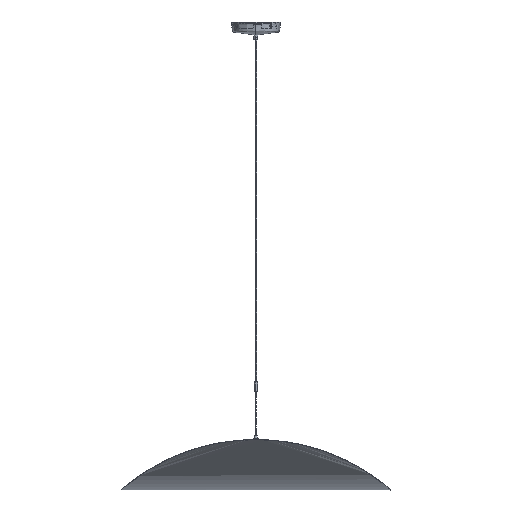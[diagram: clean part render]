
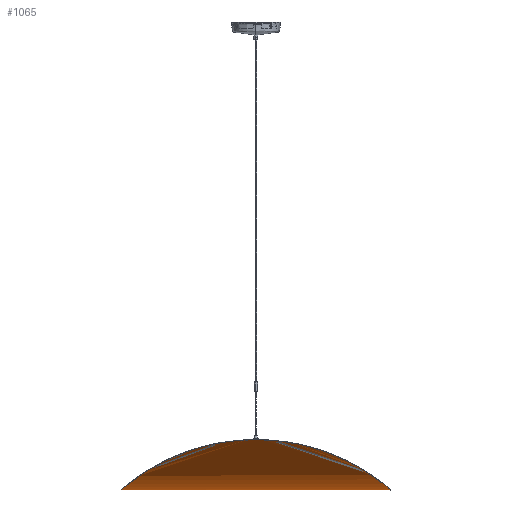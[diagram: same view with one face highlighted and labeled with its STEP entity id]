
A CAD part, front view. The second image highlights one B-rep face of the part: STEP entity #1065.
In plain terms, the highlighted free-form (B-spline) face has degree [2, 1] with [9, 2] control points.
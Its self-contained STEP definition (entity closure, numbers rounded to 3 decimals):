
#1065=ADVANCED_FACE('',(#1907),#12592,.T.);
#1907=FACE_OUTER_BOUND('',#2885,.T.);
#2885=EDGE_LOOP('',(#6923));
#6923=ORIENTED_EDGE('',*,*,#8967,.T.);
#8967=EDGE_CURVE('',#12329,#12329,#11014,.T.);
#11014=B_SPLINE_CURVE_WITH_KNOTS('',3,(#33799,#33800,#33801,#33802,#33803,
#33804,#33805,#33806,#33807,#33808,#33809,#33810,#33811,#33812,#33813,#33814,
#33815,#33816,#33817,#33818,#33819,#33820,#33821,#33822,#33823,#33824,#33825,
#33826,#33827,#33828,#33829,#33830,#33831,#33832,#33833,#33834,#33835,#33836,
#33837,#33838,#33839,#33840,#33841),.UNSPECIFIED.,.T.,.F.,(4,2,2,2,2,2,
2,2,2,2,2,2,2,2,2,2,3,2,2,2,4),(0.,0.062,0.125,
0.188,0.25,0.312,0.374,
0.437,0.5,0.563,0.626,
0.688,0.751,0.814,0.876,
0.938,1.,1.251,1.502,1.751,
2.),.UNSPECIFIED.);
#12329=VERTEX_POINT('',#33443);
#12592=(
BOUNDED_SURFACE()
B_SPLINE_SURFACE(2,1,((#33352,#33353),(#33354,#33355),(#33356,#33357),(#33358,
#33359),(#33360,#33361),(#33362,#33363),(#33364,#33365),(#33366,#33367),
(#33368,#33369)),.UNSPECIFIED.,.T.,.F.,.F.)
B_SPLINE_SURFACE_WITH_KNOTS((3,2,2,2,3),(2,2),(0.,1478.119,2956.239,
4434.358,5912.477),(0.,1295.992),.UNSPECIFIED.)
GEOMETRIC_REPRESENTATION_ITEM()
RATIONAL_B_SPLINE_SURFACE(((1.,1.),(0.707,0.707),
(1.,1.),(0.707,0.707),(1.,1.),(0.707,
0.707),(1.,1.),(0.707,0.707),(1.,1.)))
REPRESENTATION_ITEM('')
SURFACE()
);
#33352=CARTESIAN_POINT('',(-648.971,704.911,507.912));
#33353=CARTESIAN_POINT('',(647.021,704.911,507.912));
#33354=CARTESIAN_POINT('',(-648.971,704.911,1448.912));
#33355=CARTESIAN_POINT('',(647.021,704.911,1448.912));
#33356=CARTESIAN_POINT('',(-648.971,-236.089,1448.912));
#33357=CARTESIAN_POINT('',(647.021,-236.089,1448.912));
#33358=CARTESIAN_POINT('',(-648.971,-1177.089,1448.912));
#33359=CARTESIAN_POINT('',(647.021,-1177.089,1448.912));
#33360=CARTESIAN_POINT('',(-648.971,-1177.089,507.912));
#33361=CARTESIAN_POINT('',(647.021,-1177.089,507.912));
#33362=CARTESIAN_POINT('',(-648.971,-1177.089,-433.088));
#33363=CARTESIAN_POINT('',(647.021,-1177.089,-433.088));
#33364=CARTESIAN_POINT('',(-648.971,-236.089,-433.088));
#33365=CARTESIAN_POINT('',(647.021,-236.089,-433.088));
#33366=CARTESIAN_POINT('',(-648.971,704.911,-433.088));
#33367=CARTESIAN_POINT('',(647.021,704.911,-433.088));
#33368=CARTESIAN_POINT('',(-648.971,704.911,507.912));
#33369=CARTESIAN_POINT('',(647.021,704.911,507.912));
#33443=CARTESIAN_POINT('',(535.,-236.089,-433.088));
#33799=CARTESIAN_POINT('',(535.,-236.089,-433.088));
#33800=CARTESIAN_POINT('',(535.,-297.878,-433.088));
#33801=CARTESIAN_POINT('',(528.126,-359.324,-426.911));
#33802=CARTESIAN_POINT('',(499.697,-476.477,-403.84));
#33803=CARTESIAN_POINT('',(478.104,-532.184,-386.929));
#33804=CARTESIAN_POINT('',(417.29,-633.072,-346.98));
#33805=CARTESIAN_POINT('',(378.407,-676.869,-324.454));
#33806=CARTESIAN_POINT('',(286.914,-746.635,-283.58));
#33807=CARTESIAN_POINT('',(233.99,-773.115,-265.109));
#33808=CARTESIAN_POINT('',(118.488,-808.064,-239.607));
#33809=CARTESIAN_POINT('',(56.667,-816.553,-232.725));
#33810=CARTESIAN_POINT('',(-66.681,-815.585,-233.482));
#33811=CARTESIAN_POINT('',(-128.249,-806.138,-241.112));
#33812=CARTESIAN_POINT('',(-243.063,-769.141,-267.889));
#33813=CARTESIAN_POINT('',(-295.308,-741.641,-286.825));
#33814=CARTESIAN_POINT('',(-385.144,-670.072,-328.061));
#33815=CARTESIAN_POINT('',(-423.002,-625.583,-350.454));
#33816=CARTESIAN_POINT('',(-482.206,-523.045,-389.951));
#33817=CARTESIAN_POINT('',(-502.933,-466.621,-406.39));
#33818=CARTESIAN_POINT('',(-529.663,-348.771,-428.249));
#33819=CARTESIAN_POINT('',(-535.696,-287.345,-433.693));
#33820=CARTESIAN_POINT('',(-534.187,-164.79,-432.382));
#33821=CARTESIAN_POINT('',(-526.636,-103.66,-425.621));
#33822=CARTESIAN_POINT('',(-496.684,12.933,-401.49));
#33823=CARTESIAN_POINT('',(-474.246,68.396,-384.096));
#33824=CARTESIAN_POINT('',(-411.519,168.142,-343.538));
#33825=CARTESIAN_POINT('',(-371.59,211.28,-320.887));
#33826=CARTESIAN_POINT('',(-278.473,279.25,-280.424));
#33827=CARTESIAN_POINT('',(-224.892,304.72,-262.436));
#33828=CARTESIAN_POINT('',(-108.727,337.647,-238.223));
#33829=CARTESIAN_POINT('',(-46.712,345.18,-232.097));
#33830=CARTESIAN_POINT('',(76.553,342.295,-234.352));
#33831=CARTESIAN_POINT('',(137.807,331.912,-242.704));
#33832=CARTESIAN_POINT('',(194.422,312.547,-256.601));
#33833=CARTESIAN_POINT('',(250.408,293.397,-270.344));
#33834=CARTESIAN_POINT('',(300.808,265.839,-289.083));
#33835=CARTESIAN_POINT('',(387.412,195.247,-329.393));
#33836=CARTESIAN_POINT('',(423.755,152.104,-350.956));
#33837=CARTESIAN_POINT('',(481.226,52.575,-389.297));
#33838=CARTESIAN_POINT('',(501.617,-1.915,-405.36));
#33839=CARTESIAN_POINT('',(528.499,-116.2,-427.255));
#33840=CARTESIAN_POINT('',(535.,-176.003,-433.088));
#33841=CARTESIAN_POINT('',(535.,-236.089,-433.088));
